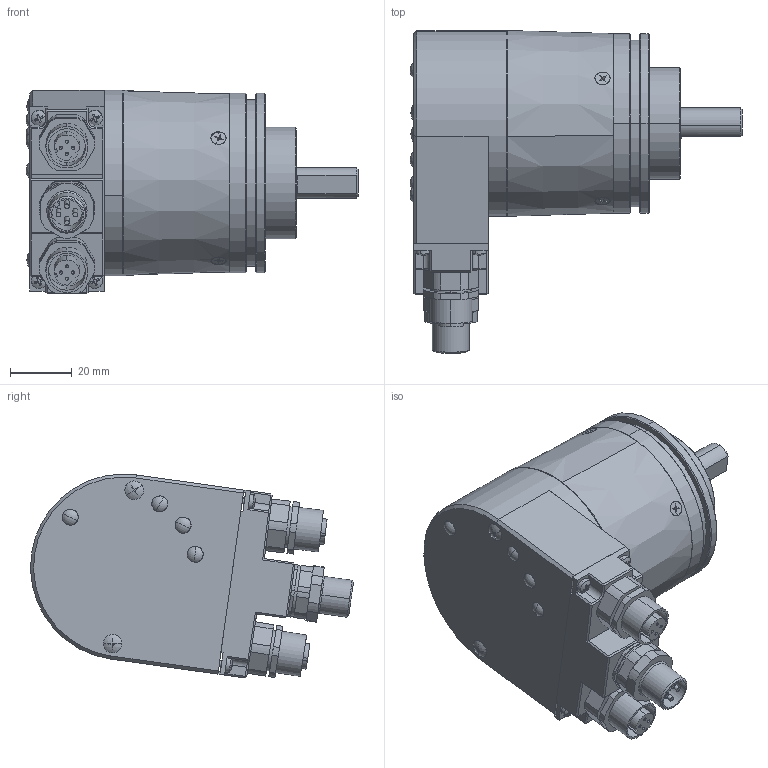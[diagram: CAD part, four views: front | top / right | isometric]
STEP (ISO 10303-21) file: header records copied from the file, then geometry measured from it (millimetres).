
FILE_DESCRIPTION (( 'STEP AP214' ), '1' );
FILE_NAME ('5868.12B2.XXXX.STEP', '2009-01-09T06:39:30', ( 'admin' ), ( 'Fritz Kübler GmbH' ), 'SwSTEP 2.0', 'SolidWorks 2008', '' );
FILE_SCHEMA (( 'AUTOMOTIVE_DESIGN' ));
Length unit declared in the file: millimetre
Products named in the file (1): 5868.12B2.XXXX
Bounding box: 107.15 x 104.23 x 65.79 mm (x, y, z)
Volume: 114343.7 mm3; surface area: 79877.9 mm2
Topology: 25 solids, 27 shells, 2447 faces, 6561 edges, 4223 vertices
Faces by surface type: cylinder 1017, plane 948, cone 320, torus 105, sphere 40, bspline 17
Entity records: 108083 total; most frequent: CARTESIAN_POINT 19177, DIRECTION 13366, ORIENTED_EDGE 12946, EDGE_CURVE 6473, AXIS2_PLACEMENT_3D 5288, VERTEX_POINT 4193, CIRCLE 2857, VECTOR 2790
